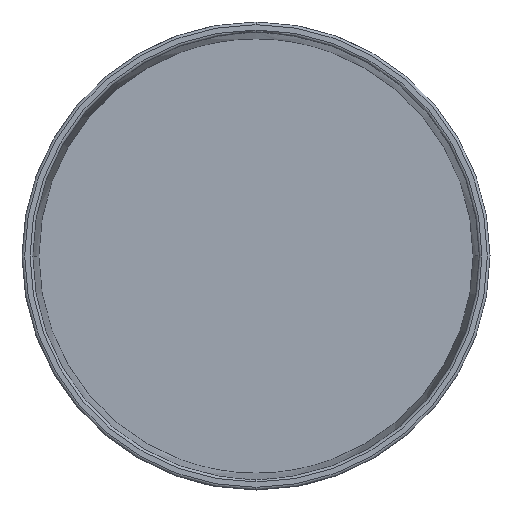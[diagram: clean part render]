
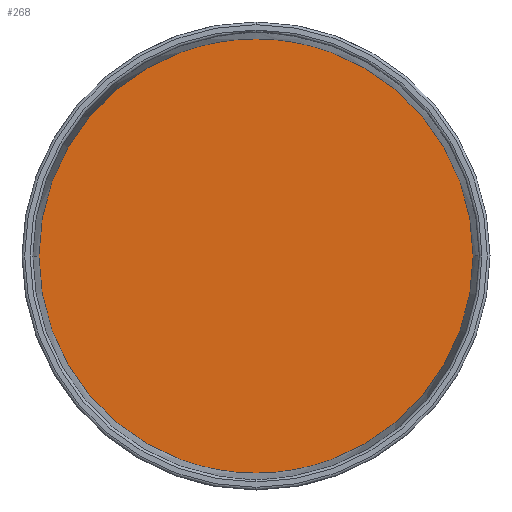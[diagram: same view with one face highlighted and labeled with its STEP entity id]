
A CAD part, front view. The second image highlights one B-rep face of the part: STEP entity #268.
In plain terms, the highlighted planar face has unit normal (0, -1, 0).
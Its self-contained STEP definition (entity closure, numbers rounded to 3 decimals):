
#147 = CARTESIAN_POINT ( 'NONE',  ( -81.19, 19.507, 0. ) ) ;
#226 = FACE_OUTER_BOUND ( 'NONE', #471, .T. ) ;
#233 = PLANE ( 'NONE',  #665 ) ;
#268 = ADVANCED_FACE ( 'NONE', ( #226 ), #233, .T. ) ;
#297 = AXIS2_PLACEMENT_3D ( 'NONE', #744, #1113, #1107 ) ;
#310 = CARTESIAN_POINT ( 'NONE',  ( -81.19, 19.507, 0. ) ) ;
#471 = EDGE_LOOP ( 'NONE', ( #611, #887 ) ) ;
#502 = DIRECTION ( 'NONE',  ( 0., 0., -1. ) ) ;
#522 = CIRCLE ( 'NONE', #648, 81.19 ) ;
#538 = VERTEX_POINT ( 'NONE', #1197 ) ;
#611 = ORIENTED_EDGE ( 'NONE', *, *, #695, .F. ) ;
#615 = CARTESIAN_POINT ( 'NONE',  ( 0., 19.507, 0. ) ) ;
#648 = AXIS2_PLACEMENT_3D ( 'NONE', #615, #1189, #978 ) ;
#665 = AXIS2_PLACEMENT_3D ( 'NONE', #147, #1044, #502 ) ;
#695 = EDGE_CURVE ( 'NONE', #924, #538, #522, .T. ) ;
#744 = CARTESIAN_POINT ( 'NONE',  ( 0., 19.507, 0. ) ) ;
#887 = ORIENTED_EDGE ( 'NONE', *, *, #1132, .F. ) ;
#924 = VERTEX_POINT ( 'NONE', #310 ) ;
#978 = DIRECTION ( 'NONE',  ( 0., 0., 1. ) ) ;
#1044 = DIRECTION ( 'NONE',  ( 0., -1., 0. ) ) ;
#1107 = DIRECTION ( 'NONE',  ( 0., 0., 1. ) ) ;
#1113 = DIRECTION ( 'NONE',  ( 0., 1., 0. ) ) ;
#1132 = EDGE_CURVE ( 'NONE', #538, #924, #1182, .T. ) ;
#1182 = CIRCLE ( 'NONE', #297, 81.19 ) ;
#1189 = DIRECTION ( 'NONE',  ( 0., 1., 0. ) ) ;
#1197 = CARTESIAN_POINT ( 'NONE',  ( 81.19, 19.507, 0. ) ) ;
